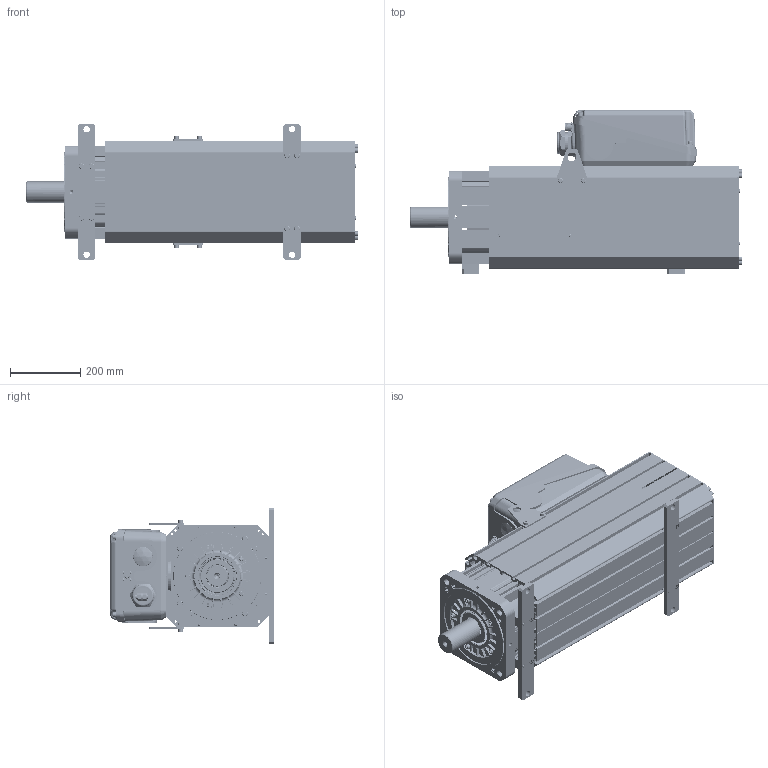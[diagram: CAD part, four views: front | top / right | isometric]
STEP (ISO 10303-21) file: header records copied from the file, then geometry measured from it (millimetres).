
FILE_DESCRIPTION((''),'2;1');
FILE_NAME('67922N-0_SW0001','2016-06-15T',('zhuanghaohui'),(''),'PRO/ENGINEER BY PARAMETRIC TECHNOLOGY CORPORATION, 2010430','PRO/ENGINEER BY PARAMETRIC TECHNOLOGY CORPORATION, 2010430','');
FILE_SCHEMA(('CONFIG_CONTROL_DESIGN'));
Products named in the file (1): 67922N-0_SW0001
Bounding box: 942.12 x 463.52 x 384.1 mm (x, y, z)
Surface area: 5536420.7 mm2 (no closed solid volume)
Topology: 0 solids, 372 shells, 3645 faces, 13778 edges, 10338 vertices
Faces by surface type: plane 1723, cylinder 937, bspline 357, cone 344, torus 251, sphere 31, extrusion 2
Entity records: 254841 total; most frequent: CARTESIAN_POINT 144318, DIRECTION 22189, ORIENTED_EDGE 20291, EDGE_CURVE 13770, VERTEX_POINT 10338, AXIS2_PLACEMENT_3D 7477, VECTOR 7235, LINE 7233
